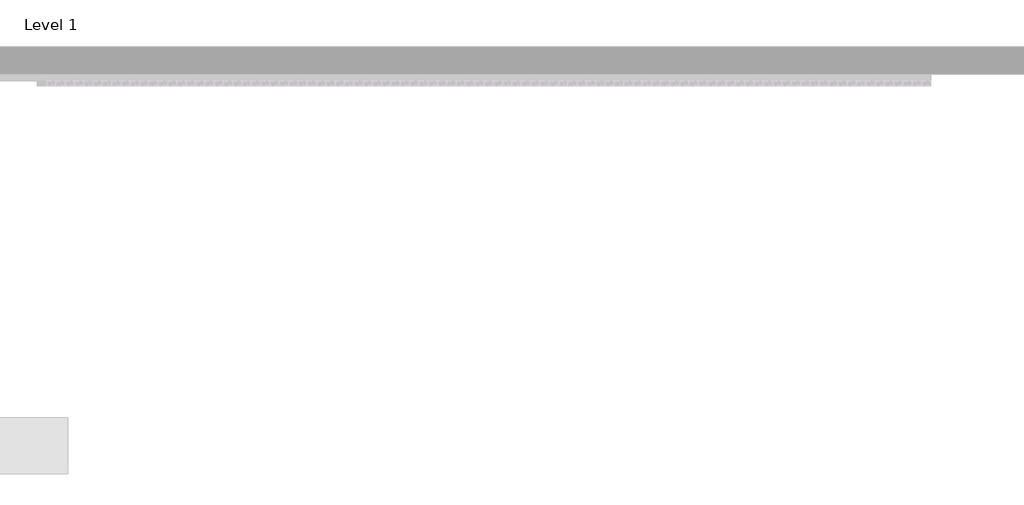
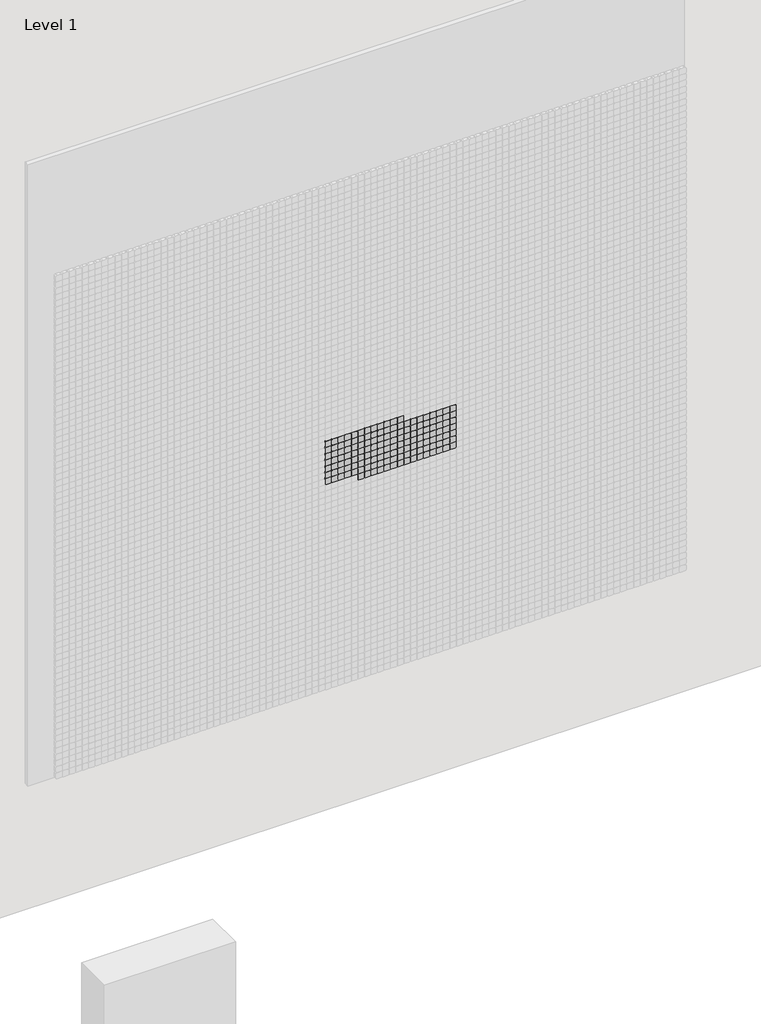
# One storey, part 43 of 71: 147 proxies.
"""IFC4 building model written with IfcOpenShell, lengths in millimetres."""

from ifc_helpers import new_model, si_unit, origin, place, context, project, spatial, transform, mapped, element, save
from components import generic_models_afde289c

model = new_model("IFC4")

# Units and contexts
model_context = context("Model", 3, world=origin())
ifc_project = project(units=[si_unit("LENGTHUNIT", "METRE", prefix="MILLI")], contexts=[model_context])

# Site, building, storey
site = spatial("IfcSite", under=ifc_project)
building = spatial("IfcBuilding", under=site)
storey = spatial("IfcBuildingStorey", under=building, Name="Level 1", Elevation=0.0)

# Proxies
placement = place(None, origin())
generic_models_shape = generic_models_afde289c(model_context)
element("IfcBuildingElementProxy", 1, Name="Pixel_M : Pixel_M", ObjectType="Pixel_M : Pixel_M", at=placement, inside=storey, context=model_context, shape_type="MappedRepresentation", body=[
    mapped(generic_models_shape, transform((7562.4280941, -75.0, 2966.3566215), x_axis=(1.0, 0.0, 0.0), y_axis=(0.0, 0.0, 1.0), z_axis=(0.0, -1.0, 0.0))),
])
element("IfcBuildingElementProxy", 2, Name="Pixel_M : Pixel_M", ObjectType="Pixel_M : Pixel_M", at=placement, inside=storey, context=model_context, shape_type="MappedRepresentation", body=[
    mapped(generic_models_shape, transform((7512.4280941, -75.0, 2966.3566215), x_axis=(1.0, 0.0, 0.0), y_axis=(0.0, 0.0, 1.0), z_axis=(0.0, -1.0, 0.0))),
])
element("IfcBuildingElementProxy", 3, Name="Pixel_M : Pixel_M", ObjectType="Pixel_M : Pixel_M", at=placement, inside=storey, context=model_context, shape_type="MappedRepresentation", body=[
    mapped(generic_models_shape, transform((7462.4280941, -75.0, 2966.3566215), x_axis=(1.0, 0.0, 0.0), y_axis=(0.0, 0.0, 1.0), z_axis=(0.0, -1.0, 0.0))),
])
element("IfcBuildingElementProxy", 4, Name="Pixel_M : Pixel_M", ObjectType="Pixel_M : Pixel_M", at=placement, inside=storey, context=model_context, shape_type="MappedRepresentation", body=[
    mapped(generic_models_shape, transform((7412.4280941, -75.0, 2966.3566215), x_axis=(1.0, 0.0, 0.0), y_axis=(0.0, 0.0, 1.0), z_axis=(0.0, -1.0, 0.0))),
])
element("IfcBuildingElementProxy", 5, Name="Pixel_M : Pixel_M", ObjectType="Pixel_M : Pixel_M", at=placement, inside=storey, context=model_context, shape_type="MappedRepresentation", body=[
    mapped(generic_models_shape, transform((7362.4280941, -75.0, 2966.3566215), x_axis=(1.0, 0.0, 0.0), y_axis=(0.0, 0.0, 1.0), z_axis=(0.0, -1.0, 0.0))),
])
element("IfcBuildingElementProxy", 6, Name="Pixel_M : Pixel_M", ObjectType="Pixel_M : Pixel_M", at=placement, inside=storey, context=model_context, shape_type="MappedRepresentation", body=[
    mapped(generic_models_shape, transform((7312.4280941, -75.0, 2966.3566215), x_axis=(1.0, 0.0, 0.0), y_axis=(0.0, 0.0, 1.0), z_axis=(0.0, -1.0, 0.0))),
])
element("IfcBuildingElementProxy", 7, Name="Pixel_M : Pixel_M", ObjectType="Pixel_M : Pixel_M", at=placement, inside=storey, context=model_context, shape_type="MappedRepresentation", body=[
    mapped(generic_models_shape, transform((7262.4280941, -75.0, 2966.3566215), x_axis=(1.0, 0.0, 0.0), y_axis=(0.0, 0.0, 1.0), z_axis=(0.0, -1.0, 0.0))),
])
element("IfcBuildingElementProxy", 8, Name="Pixel_M : Pixel_M", ObjectType="Pixel_M : Pixel_M", at=placement, inside=storey, context=model_context, shape_type="MappedRepresentation", body=[
    mapped(generic_models_shape, transform((7212.4280941, -75.0, 2966.3566215), x_axis=(1.0, 0.0, 0.0), y_axis=(0.0, 0.0, 1.0), z_axis=(0.0, -1.0, 0.0))),
])
element("IfcBuildingElementProxy", 9, Name="Pixel_M : Pixel_M", ObjectType="Pixel_M : Pixel_M", at=placement, inside=storey, context=model_context, shape_type="MappedRepresentation", body=[
    mapped(generic_models_shape, transform((7162.4280941, -75.0, 2966.3566215), x_axis=(1.0, 0.0, 0.0), y_axis=(0.0, 0.0, 1.0), z_axis=(0.0, -1.0, 0.0))),
])
element("IfcBuildingElementProxy", 10, Name="Pixel_M : Pixel_M", ObjectType="Pixel_M : Pixel_M", at=placement, inside=storey, context=model_context, shape_type="MappedRepresentation", body=[
    mapped(generic_models_shape, transform((7112.4280941, -75.0, 2966.3566215), x_axis=(1.0, 0.0, 0.0), y_axis=(0.0, 0.0, 1.0), z_axis=(0.0, -1.0, 0.0))),
])
element("IfcBuildingElementProxy", 11, Name="Pixel_M : Pixel_M", ObjectType="Pixel_M : Pixel_M", at=placement, inside=storey, context=model_context, shape_type="MappedRepresentation", body=[
    mapped(generic_models_shape, transform((7062.4280941, -75.0, 2966.3566215), x_axis=(1.0, 0.0, 0.0), y_axis=(0.0, 0.0, 1.0), z_axis=(0.0, -1.0, 0.0))),
])
element("IfcBuildingElementProxy", 12, Name="Pixel_M : Pixel_M", ObjectType="Pixel_M : Pixel_M", at=placement, inside=storey, context=model_context, shape_type="MappedRepresentation", body=[
    mapped(generic_models_shape, transform((7012.4280941, -75.0, 2966.3566215), x_axis=(1.0, 0.0, 0.0), y_axis=(0.0, 0.0, 1.0), z_axis=(0.0, -1.0, 0.0))),
])
element("IfcBuildingElementProxy", 13, Name="Pixel_M : Pixel_M", ObjectType="Pixel_M : Pixel_M", at=placement, inside=storey, context=model_context, shape_type="MappedRepresentation", body=[
    mapped(generic_models_shape, transform((7962.4280941, -75.0, 2916.3566215), x_axis=(1.0, 0.0, 0.0), y_axis=(0.0, 0.0, 1.0), z_axis=(0.0, -1.0, 0.0))),
])
element("IfcBuildingElementProxy", 14, Name="Pixel_M : Pixel_M", ObjectType="Pixel_M : Pixel_M", at=placement, inside=storey, context=model_context, shape_type="MappedRepresentation", body=[
    mapped(generic_models_shape, transform((7912.4280941, -75.0, 2916.3566215), x_axis=(1.0, 0.0, 0.0), y_axis=(0.0, 0.0, 1.0), z_axis=(0.0, -1.0, 0.0))),
])
element("IfcBuildingElementProxy", 15, Name="Pixel_M : Pixel_M", ObjectType="Pixel_M : Pixel_M", at=placement, inside=storey, context=model_context, shape_type="MappedRepresentation", body=[
    mapped(generic_models_shape, transform((7862.4280941, -75.0, 2916.3566215), x_axis=(1.0, 0.0, 0.0), y_axis=(0.0, 0.0, 1.0), z_axis=(0.0, -1.0, 0.0))),
])
element("IfcBuildingElementProxy", 16, Name="Pixel_M : Pixel_M", ObjectType="Pixel_M : Pixel_M", at=placement, inside=storey, context=model_context, shape_type="MappedRepresentation", body=[
    mapped(generic_models_shape, transform((7812.4280941, -75.0, 2916.3566215), x_axis=(1.0, 0.0, 0.0), y_axis=(0.0, 0.0, 1.0), z_axis=(0.0, -1.0, 0.0))),
])
element("IfcBuildingElementProxy", 17, Name="Pixel_M : Pixel_M", ObjectType="Pixel_M : Pixel_M", at=placement, inside=storey, context=model_context, shape_type="MappedRepresentation", body=[
    mapped(generic_models_shape, transform((7762.4280941, -75.0, 2916.3566215), x_axis=(1.0, 0.0, 0.0), y_axis=(0.0, 0.0, 1.0), z_axis=(0.0, -1.0, 0.0))),
])
element("IfcBuildingElementProxy", 18, Name="Pixel_M : Pixel_M", ObjectType="Pixel_M : Pixel_M", at=placement, inside=storey, context=model_context, shape_type="MappedRepresentation", body=[
    mapped(generic_models_shape, transform((7712.4280941, -75.0, 2916.3566215), x_axis=(1.0, 0.0, 0.0), y_axis=(0.0, 0.0, 1.0), z_axis=(0.0, -1.0, 0.0))),
])
element("IfcBuildingElementProxy", 19, Name="Pixel_M : Pixel_M", ObjectType="Pixel_M : Pixel_M", at=placement, inside=storey, context=model_context, shape_type="MappedRepresentation", body=[
    mapped(generic_models_shape, transform((7662.4280941, -75.0, 2916.3566215), x_axis=(1.0, 0.0, 0.0), y_axis=(0.0, 0.0, 1.0), z_axis=(0.0, -1.0, 0.0))),
])
element("IfcBuildingElementProxy", 20, Name="Pixel_M : Pixel_M", ObjectType="Pixel_M : Pixel_M", at=placement, inside=storey, context=model_context, shape_type="MappedRepresentation", body=[
    mapped(generic_models_shape, transform((7612.4280941, -75.0, 2916.3566215), x_axis=(1.0, 0.0, 0.0), y_axis=(0.0, 0.0, 1.0), z_axis=(0.0, -1.0, 0.0))),
])
element("IfcBuildingElementProxy", 21, Name="Pixel_M : Pixel_M", ObjectType="Pixel_M : Pixel_M", at=placement, inside=storey, context=model_context, shape_type="MappedRepresentation", body=[
    mapped(generic_models_shape, transform((7562.4280941, -75.0, 2916.3566215), x_axis=(1.0, 0.0, 0.0), y_axis=(0.0, 0.0, 1.0), z_axis=(0.0, -1.0, 0.0))),
])
element("IfcBuildingElementProxy", 22, Name="Pixel_M : Pixel_M", ObjectType="Pixel_M : Pixel_M", at=placement, inside=storey, context=model_context, shape_type="MappedRepresentation", body=[
    mapped(generic_models_shape, transform((7512.4280941, -75.0, 2916.3566215), x_axis=(1.0, 0.0, 0.0), y_axis=(0.0, 0.0, 1.0), z_axis=(0.0, -1.0, 0.0))),
])
element("IfcBuildingElementProxy", 23, Name="Pixel_M : Pixel_M", ObjectType="Pixel_M : Pixel_M", at=placement, inside=storey, context=model_context, shape_type="MappedRepresentation", body=[
    mapped(generic_models_shape, transform((7462.4280941, -75.0, 2916.3566215), x_axis=(1.0, 0.0, 0.0), y_axis=(0.0, 0.0, 1.0), z_axis=(0.0, -1.0, 0.0))),
])
element("IfcBuildingElementProxy", 24, Name="Pixel_M : Pixel_M", ObjectType="Pixel_M : Pixel_M", at=placement, inside=storey, context=model_context, shape_type="MappedRepresentation", body=[
    mapped(generic_models_shape, transform((7412.4280941, -75.0, 2916.3566215), x_axis=(1.0, 0.0, 0.0), y_axis=(0.0, 0.0, 1.0), z_axis=(0.0, -1.0, 0.0))),
])
element("IfcBuildingElementProxy", 25, Name="Pixel_M : Pixel_M", ObjectType="Pixel_M : Pixel_M", at=placement, inside=storey, context=model_context, shape_type="MappedRepresentation", body=[
    mapped(generic_models_shape, transform((7362.4280941, -75.0, 2916.3566215), x_axis=(1.0, 0.0, 0.0), y_axis=(0.0, 0.0, 1.0), z_axis=(0.0, -1.0, 0.0))),
])
element("IfcBuildingElementProxy", 26, Name="Pixel_M : Pixel_M", ObjectType="Pixel_M : Pixel_M", at=placement, inside=storey, context=model_context, shape_type="MappedRepresentation", body=[
    mapped(generic_models_shape, transform((7312.4280941, -75.0, 2916.3566215), x_axis=(1.0, 0.0, 0.0), y_axis=(0.0, 0.0, 1.0), z_axis=(0.0, -1.0, 0.0))),
])
element("IfcBuildingElementProxy", 27, Name="Pixel_M : Pixel_M", ObjectType="Pixel_M : Pixel_M", at=placement, inside=storey, context=model_context, shape_type="MappedRepresentation", body=[
    mapped(generic_models_shape, transform((7262.4280941, -75.0, 2916.3566215), x_axis=(1.0, 0.0, 0.0), y_axis=(0.0, 0.0, 1.0), z_axis=(0.0, -1.0, 0.0))),
])
element("IfcBuildingElementProxy", 28, Name="Pixel_M : Pixel_M", ObjectType="Pixel_M : Pixel_M", at=placement, inside=storey, context=model_context, shape_type="MappedRepresentation", body=[
    mapped(generic_models_shape, transform((7212.4280941, -75.0, 2916.3566215), x_axis=(1.0, 0.0, 0.0), y_axis=(0.0, 0.0, 1.0), z_axis=(0.0, -1.0, 0.0))),
])
element("IfcBuildingElementProxy", 29, Name="Pixel_M : Pixel_M", ObjectType="Pixel_M : Pixel_M", at=placement, inside=storey, context=model_context, shape_type="MappedRepresentation", body=[
    mapped(generic_models_shape, transform((7162.4280941, -75.0, 2916.3566215), x_axis=(1.0, 0.0, 0.0), y_axis=(0.0, 0.0, 1.0), z_axis=(0.0, -1.0, 0.0))),
])
element("IfcBuildingElementProxy", 30, Name="Pixel_M : Pixel_M", ObjectType="Pixel_M : Pixel_M", at=placement, inside=storey, context=model_context, shape_type="MappedRepresentation", body=[
    mapped(generic_models_shape, transform((7112.4280941, -75.0, 2916.3566215), x_axis=(1.0, 0.0, 0.0), y_axis=(0.0, 0.0, 1.0), z_axis=(0.0, -1.0, 0.0))),
])
element("IfcBuildingElementProxy", 31, Name="Pixel_M : Pixel_M", ObjectType="Pixel_M : Pixel_M", at=placement, inside=storey, context=model_context, shape_type="MappedRepresentation", body=[
    mapped(generic_models_shape, transform((7062.4280941, -75.0, 2916.3566215), x_axis=(1.0, 0.0, 0.0), y_axis=(0.0, 0.0, 1.0), z_axis=(0.0, -1.0, 0.0))),
])
element("IfcBuildingElementProxy", 32, Name="Pixel_M : Pixel_M", ObjectType="Pixel_M : Pixel_M", at=placement, inside=storey, context=model_context, shape_type="MappedRepresentation", body=[
    mapped(generic_models_shape, transform((7012.4280941, -75.0, 2916.3566215), x_axis=(1.0, 0.0, 0.0), y_axis=(0.0, 0.0, 1.0), z_axis=(0.0, -1.0, 0.0))),
])
element("IfcBuildingElementProxy", 33, Name="Pixel_M : Pixel_M", ObjectType="Pixel_M : Pixel_M", at=placement, inside=storey, context=model_context, shape_type="MappedRepresentation", body=[
    mapped(generic_models_shape, transform((7962.4280941, -75.0, 2866.3566215), x_axis=(1.0, 0.0, 0.0), y_axis=(0.0, 0.0, 1.0), z_axis=(0.0, -1.0, 0.0))),
])
element("IfcBuildingElementProxy", 34, Name="Pixel_M : Pixel_M", ObjectType="Pixel_M : Pixel_M", at=placement, inside=storey, context=model_context, shape_type="MappedRepresentation", body=[
    mapped(generic_models_shape, transform((7912.4280941, -75.0, 2866.3566215), x_axis=(1.0, 0.0, 0.0), y_axis=(0.0, 0.0, 1.0), z_axis=(0.0, -1.0, 0.0))),
])
element("IfcBuildingElementProxy", 35, Name="Pixel_M : Pixel_M", ObjectType="Pixel_M : Pixel_M", at=placement, inside=storey, context=model_context, shape_type="MappedRepresentation", body=[
    mapped(generic_models_shape, transform((7862.4280941, -75.0, 2866.3566215), x_axis=(1.0, 0.0, 0.0), y_axis=(0.0, 0.0, 1.0), z_axis=(0.0, -1.0, 0.0))),
])
element("IfcBuildingElementProxy", 36, Name="Pixel_M : Pixel_M", ObjectType="Pixel_M : Pixel_M", at=placement, inside=storey, context=model_context, shape_type="MappedRepresentation", body=[
    mapped(generic_models_shape, transform((7812.4280941, -75.0, 2866.3566215), x_axis=(1.0, 0.0, 0.0), y_axis=(0.0, 0.0, 1.0), z_axis=(0.0, -1.0, 0.0))),
])
element("IfcBuildingElementProxy", 37, Name="Pixel_M : Pixel_M", ObjectType="Pixel_M : Pixel_M", at=placement, inside=storey, context=model_context, shape_type="MappedRepresentation", body=[
    mapped(generic_models_shape, transform((7762.4280941, -75.0, 2866.3566215), x_axis=(1.0, 0.0, 0.0), y_axis=(0.0, 0.0, 1.0), z_axis=(0.0, -1.0, 0.0))),
])
element("IfcBuildingElementProxy", 38, Name="Pixel_M : Pixel_M", ObjectType="Pixel_M : Pixel_M", at=placement, inside=storey, context=model_context, shape_type="MappedRepresentation", body=[
    mapped(generic_models_shape, transform((7712.4280941, -75.0, 2866.3566215), x_axis=(1.0, 0.0, 0.0), y_axis=(0.0, 0.0, 1.0), z_axis=(0.0, -1.0, 0.0))),
])
element("IfcBuildingElementProxy", 39, Name="Pixel_M : Pixel_M", ObjectType="Pixel_M : Pixel_M", at=placement, inside=storey, context=model_context, shape_type="MappedRepresentation", body=[
    mapped(generic_models_shape, transform((7662.4280941, -75.0, 2866.3566215), x_axis=(1.0, 0.0, 0.0), y_axis=(0.0, 0.0, 1.0), z_axis=(0.0, -1.0, 0.0))),
])
element("IfcBuildingElementProxy", 40, Name="Pixel_M : Pixel_M", ObjectType="Pixel_M : Pixel_M", at=placement, inside=storey, context=model_context, shape_type="MappedRepresentation", body=[
    mapped(generic_models_shape, transform((7612.4280941, -75.0, 2866.3566215), x_axis=(1.0, 0.0, 0.0), y_axis=(0.0, 0.0, 1.0), z_axis=(0.0, -1.0, 0.0))),
])
element("IfcBuildingElementProxy", 41, Name="Pixel_M : Pixel_M", ObjectType="Pixel_M : Pixel_M", at=placement, inside=storey, context=model_context, shape_type="MappedRepresentation", body=[
    mapped(generic_models_shape, transform((7562.4280941, -75.0, 2866.3566215), x_axis=(1.0, 0.0, 0.0), y_axis=(0.0, 0.0, 1.0), z_axis=(0.0, -1.0, 0.0))),
])
element("IfcBuildingElementProxy", 42, Name="Pixel_M : Pixel_M", ObjectType="Pixel_M : Pixel_M", at=placement, inside=storey, context=model_context, shape_type="MappedRepresentation", body=[
    mapped(generic_models_shape, transform((7512.4280941, -75.0, 2866.3566215), x_axis=(1.0, 0.0, 0.0), y_axis=(0.0, 0.0, 1.0), z_axis=(0.0, -1.0, 0.0))),
])
element("IfcBuildingElementProxy", 43, Name="Pixel_M : Pixel_M", ObjectType="Pixel_M : Pixel_M", at=placement, inside=storey, context=model_context, shape_type="MappedRepresentation", body=[
    mapped(generic_models_shape, transform((7462.4280941, -75.0, 2866.3566215), x_axis=(1.0, 0.0, 0.0), y_axis=(0.0, 0.0, 1.0), z_axis=(0.0, -1.0, 0.0))),
])
element("IfcBuildingElementProxy", 44, Name="Pixel_M : Pixel_M", ObjectType="Pixel_M : Pixel_M", at=placement, inside=storey, context=model_context, shape_type="MappedRepresentation", body=[
    mapped(generic_models_shape, transform((7412.4280941, -75.0, 2866.3566215), x_axis=(1.0, 0.0, 0.0), y_axis=(0.0, 0.0, 1.0), z_axis=(0.0, -1.0, 0.0))),
])
element("IfcBuildingElementProxy", 45, Name="Pixel_M : Pixel_M", ObjectType="Pixel_M : Pixel_M", at=placement, inside=storey, context=model_context, shape_type="MappedRepresentation", body=[
    mapped(generic_models_shape, transform((7362.4280941, -75.0, 2866.3566215), x_axis=(1.0, 0.0, 0.0), y_axis=(0.0, 0.0, 1.0), z_axis=(0.0, -1.0, 0.0))),
])
element("IfcBuildingElementProxy", 46, Name="Pixel_M : Pixel_M", ObjectType="Pixel_M : Pixel_M", at=placement, inside=storey, context=model_context, shape_type="MappedRepresentation", body=[
    mapped(generic_models_shape, transform((7312.4280941, -75.0, 2866.3566215), x_axis=(1.0, 0.0, 0.0), y_axis=(0.0, 0.0, 1.0), z_axis=(0.0, -1.0, 0.0))),
])
element("IfcBuildingElementProxy", 47, Name="Pixel_M : Pixel_M", ObjectType="Pixel_M : Pixel_M", at=placement, inside=storey, context=model_context, shape_type="MappedRepresentation", body=[
    mapped(generic_models_shape, transform((7262.4280941, -75.0, 2866.3566215), x_axis=(1.0, 0.0, 0.0), y_axis=(0.0, 0.0, 1.0), z_axis=(0.0, -1.0, 0.0))),
])
element("IfcBuildingElementProxy", 48, Name="Pixel_M : Pixel_M", ObjectType="Pixel_M : Pixel_M", at=placement, inside=storey, context=model_context, shape_type="MappedRepresentation", body=[
    mapped(generic_models_shape, transform((7212.4280941, -75.0, 2866.3566215), x_axis=(1.0, 0.0, 0.0), y_axis=(0.0, 0.0, 1.0), z_axis=(0.0, -1.0, 0.0))),
])
element("IfcBuildingElementProxy", 49, Name="Pixel_M : Pixel_M", ObjectType="Pixel_M : Pixel_M", at=placement, inside=storey, context=model_context, shape_type="MappedRepresentation", body=[
    mapped(generic_models_shape, transform((7162.4280941, -75.0, 2866.3566215), x_axis=(1.0, 0.0, 0.0), y_axis=(0.0, 0.0, 1.0), z_axis=(0.0, -1.0, 0.0))),
])
element("IfcBuildingElementProxy", 50, Name="Pixel_M : Pixel_M", ObjectType="Pixel_M : Pixel_M", at=placement, inside=storey, context=model_context, shape_type="MappedRepresentation", body=[
    mapped(generic_models_shape, transform((7112.4280941, -75.0, 2866.3566215), x_axis=(1.0, 0.0, 0.0), y_axis=(0.0, 0.0, 1.0), z_axis=(0.0, -1.0, 0.0))),
])
element("IfcBuildingElementProxy", 51, Name="Pixel_M : Pixel_M", ObjectType="Pixel_M : Pixel_M", at=placement, inside=storey, context=model_context, shape_type="MappedRepresentation", body=[
    mapped(generic_models_shape, transform((7062.4280941, -75.0, 2866.3566215), x_axis=(1.0, 0.0, 0.0), y_axis=(0.0, 0.0, 1.0), z_axis=(0.0, -1.0, 0.0))),
])
element("IfcBuildingElementProxy", 52, Name="Pixel_M : Pixel_M", ObjectType="Pixel_M : Pixel_M", at=placement, inside=storey, context=model_context, shape_type="MappedRepresentation", body=[
    mapped(generic_models_shape, transform((7012.4280941, -75.0, 2866.3566215), x_axis=(1.0, 0.0, 0.0), y_axis=(0.0, 0.0, 1.0), z_axis=(0.0, -1.0, 0.0))),
])
element("IfcBuildingElementProxy", 53, Name="Pixel_M : Pixel_M", ObjectType="Pixel_M : Pixel_M", at=placement, inside=storey, context=model_context, shape_type="MappedRepresentation", body=[
    mapped(generic_models_shape, transform((7962.4280941, -75.0, 2816.3566215), x_axis=(1.0, 0.0, 0.0), y_axis=(0.0, 0.0, 1.0), z_axis=(0.0, -1.0, 0.0))),
])
element("IfcBuildingElementProxy", 54, Name="Pixel_M : Pixel_M", ObjectType="Pixel_M : Pixel_M", at=placement, inside=storey, context=model_context, shape_type="MappedRepresentation", body=[
    mapped(generic_models_shape, transform((7912.4280941, -75.0, 2816.3566215), x_axis=(1.0, 0.0, 0.0), y_axis=(0.0, 0.0, 1.0), z_axis=(0.0, -1.0, 0.0))),
])
element("IfcBuildingElementProxy", 55, Name="Pixel_M : Pixel_M", ObjectType="Pixel_M : Pixel_M", at=placement, inside=storey, context=model_context, shape_type="MappedRepresentation", body=[
    mapped(generic_models_shape, transform((7862.4280941, -75.0, 2816.3566215), x_axis=(1.0, 0.0, 0.0), y_axis=(0.0, 0.0, 1.0), z_axis=(0.0, -1.0, 0.0))),
])
element("IfcBuildingElementProxy", 56, Name="Pixel_M : Pixel_M", ObjectType="Pixel_M : Pixel_M", at=placement, inside=storey, context=model_context, shape_type="MappedRepresentation", body=[
    mapped(generic_models_shape, transform((7812.4280941, -75.0, 2816.3566215), x_axis=(1.0, 0.0, 0.0), y_axis=(0.0, 0.0, 1.0), z_axis=(0.0, -1.0, 0.0))),
])
element("IfcBuildingElementProxy", 57, Name="Pixel_M : Pixel_M", ObjectType="Pixel_M : Pixel_M", at=placement, inside=storey, context=model_context, shape_type="MappedRepresentation", body=[
    mapped(generic_models_shape, transform((7762.4280941, -75.0, 2816.3566215), x_axis=(1.0, 0.0, 0.0), y_axis=(0.0, 0.0, 1.0), z_axis=(0.0, -1.0, 0.0))),
])
element("IfcBuildingElementProxy", 58, Name="Pixel_M : Pixel_M", ObjectType="Pixel_M : Pixel_M", at=placement, inside=storey, context=model_context, shape_type="MappedRepresentation", body=[
    mapped(generic_models_shape, transform((7712.4280941, -75.0, 2816.3566215), x_axis=(1.0, 0.0, 0.0), y_axis=(0.0, 0.0, 1.0), z_axis=(0.0, -1.0, 0.0))),
])
element("IfcBuildingElementProxy", 59, Name="Pixel_M : Pixel_M", ObjectType="Pixel_M : Pixel_M", at=placement, inside=storey, context=model_context, shape_type="MappedRepresentation", body=[
    mapped(generic_models_shape, transform((7662.4280941, -75.0, 2816.3566215), x_axis=(1.0, 0.0, 0.0), y_axis=(0.0, 0.0, 1.0), z_axis=(0.0, -1.0, 0.0))),
])
element("IfcBuildingElementProxy", 60, Name="Pixel_M : Pixel_M", ObjectType="Pixel_M : Pixel_M", at=placement, inside=storey, context=model_context, shape_type="MappedRepresentation", body=[
    mapped(generic_models_shape, transform((7612.4280941, -75.0, 2816.3566215), x_axis=(1.0, 0.0, 0.0), y_axis=(0.0, 0.0, 1.0), z_axis=(0.0, -1.0, 0.0))),
])
element("IfcBuildingElementProxy", 61, Name="Pixel_M : Pixel_M", ObjectType="Pixel_M : Pixel_M", at=placement, inside=storey, context=model_context, shape_type="MappedRepresentation", body=[
    mapped(generic_models_shape, transform((7562.4280941, -75.0, 2816.3566215), x_axis=(1.0, 0.0, 0.0), y_axis=(0.0, 0.0, 1.0), z_axis=(0.0, -1.0, 0.0))),
])
element("IfcBuildingElementProxy", 62, Name="Pixel_M : Pixel_M", ObjectType="Pixel_M : Pixel_M", at=placement, inside=storey, context=model_context, shape_type="MappedRepresentation", body=[
    mapped(generic_models_shape, transform((7512.4280941, -75.0, 2816.3566215), x_axis=(1.0, 0.0, 0.0), y_axis=(0.0, 0.0, 1.0), z_axis=(0.0, -1.0, 0.0))),
])
element("IfcBuildingElementProxy", 63, Name="Pixel_M : Pixel_M", ObjectType="Pixel_M : Pixel_M", at=placement, inside=storey, context=model_context, shape_type="MappedRepresentation", body=[
    mapped(generic_models_shape, transform((7462.4280941, -75.0, 2816.3566215), x_axis=(1.0, 0.0, 0.0), y_axis=(0.0, 0.0, 1.0), z_axis=(0.0, -1.0, 0.0))),
])
element("IfcBuildingElementProxy", 64, Name="Pixel_M : Pixel_M", ObjectType="Pixel_M : Pixel_M", at=placement, inside=storey, context=model_context, shape_type="MappedRepresentation", body=[
    mapped(generic_models_shape, transform((7412.4280941, -75.0, 2816.3566215), x_axis=(1.0, 0.0, 0.0), y_axis=(0.0, 0.0, 1.0), z_axis=(0.0, -1.0, 0.0))),
])
element("IfcBuildingElementProxy", 65, Name="Pixel_M : Pixel_M", ObjectType="Pixel_M : Pixel_M", at=placement, inside=storey, context=model_context, shape_type="MappedRepresentation", body=[
    mapped(generic_models_shape, transform((7362.4280941, -75.0, 2816.3566215), x_axis=(1.0, 0.0, 0.0), y_axis=(0.0, 0.0, 1.0), z_axis=(0.0, -1.0, 0.0))),
])
element("IfcBuildingElementProxy", 66, Name="Pixel_M : Pixel_M", ObjectType="Pixel_M : Pixel_M", at=placement, inside=storey, context=model_context, shape_type="MappedRepresentation", body=[
    mapped(generic_models_shape, transform((7312.4280941, -75.0, 2816.3566215), x_axis=(1.0, 0.0, 0.0), y_axis=(0.0, 0.0, 1.0), z_axis=(0.0, -1.0, 0.0))),
])
element("IfcBuildingElementProxy", 67, Name="Pixel_M : Pixel_M", ObjectType="Pixel_M : Pixel_M", at=placement, inside=storey, context=model_context, shape_type="MappedRepresentation", body=[
    mapped(generic_models_shape, transform((7262.4280941, -75.0, 2816.3566215), x_axis=(1.0, 0.0, 0.0), y_axis=(0.0, 0.0, 1.0), z_axis=(0.0, -1.0, 0.0))),
])
element("IfcBuildingElementProxy", 68, Name="Pixel_M : Pixel_M", ObjectType="Pixel_M : Pixel_M", at=placement, inside=storey, context=model_context, shape_type="MappedRepresentation", body=[
    mapped(generic_models_shape, transform((7212.4280941, -75.0, 2816.3566215), x_axis=(1.0, 0.0, 0.0), y_axis=(0.0, 0.0, 1.0), z_axis=(0.0, -1.0, 0.0))),
])
element("IfcBuildingElementProxy", 69, Name="Pixel_M : Pixel_M", ObjectType="Pixel_M : Pixel_M", at=placement, inside=storey, context=model_context, shape_type="MappedRepresentation", body=[
    mapped(generic_models_shape, transform((7162.4280941, -75.0, 2816.3566215), x_axis=(1.0, 0.0, 0.0), y_axis=(0.0, 0.0, 1.0), z_axis=(0.0, -1.0, 0.0))),
])
element("IfcBuildingElementProxy", 70, Name="Pixel_M : Pixel_M", ObjectType="Pixel_M : Pixel_M", at=placement, inside=storey, context=model_context, shape_type="MappedRepresentation", body=[
    mapped(generic_models_shape, transform((7112.4280941, -75.0, 2816.3566215), x_axis=(1.0, 0.0, 0.0), y_axis=(0.0, 0.0, 1.0), z_axis=(0.0, -1.0, 0.0))),
])
element("IfcBuildingElementProxy", 71, Name="Pixel_M : Pixel_M", ObjectType="Pixel_M : Pixel_M", at=placement, inside=storey, context=model_context, shape_type="MappedRepresentation", body=[
    mapped(generic_models_shape, transform((7062.4280941, -75.0, 2816.3566215), x_axis=(1.0, 0.0, 0.0), y_axis=(0.0, 0.0, 1.0), z_axis=(0.0, -1.0, 0.0))),
])
element("IfcBuildingElementProxy", 72, Name="Pixel_M : Pixel_M", ObjectType="Pixel_M : Pixel_M", at=placement, inside=storey, context=model_context, shape_type="MappedRepresentation", body=[
    mapped(generic_models_shape, transform((7012.4280941, -75.0, 2816.3566215), x_axis=(1.0, 0.0, 0.0), y_axis=(0.0, 0.0, 1.0), z_axis=(0.0, -1.0, 0.0))),
])
element("IfcBuildingElementProxy", 73, Name="Pixel_M : Pixel_M", ObjectType="Pixel_M : Pixel_M", at=placement, inside=storey, context=model_context, shape_type="MappedRepresentation", body=[
    mapped(generic_models_shape, transform((7962.4280941, -75.0, 2766.3566215), x_axis=(1.0, 0.0, 0.0), y_axis=(0.0, 0.0, 1.0), z_axis=(0.0, -1.0, 0.0))),
])
element("IfcBuildingElementProxy", 74, Name="Pixel_M : Pixel_M", ObjectType="Pixel_M : Pixel_M", at=placement, inside=storey, context=model_context, shape_type="MappedRepresentation", body=[
    mapped(generic_models_shape, transform((7912.4280941, -75.0, 2766.3566215), x_axis=(1.0, 0.0, 0.0), y_axis=(0.0, 0.0, 1.0), z_axis=(0.0, -1.0, 0.0))),
])
element("IfcBuildingElementProxy", 75, Name="Pixel_M : Pixel_M", ObjectType="Pixel_M : Pixel_M", at=placement, inside=storey, context=model_context, shape_type="MappedRepresentation", body=[
    mapped(generic_models_shape, transform((7862.4280941, -75.0, 2766.3566215), x_axis=(1.0, 0.0, 0.0), y_axis=(0.0, 0.0, 1.0), z_axis=(0.0, -1.0, 0.0))),
])
element("IfcBuildingElementProxy", 76, Name="Pixel_M : Pixel_M", ObjectType="Pixel_M : Pixel_M", at=placement, inside=storey, context=model_context, shape_type="MappedRepresentation", body=[
    mapped(generic_models_shape, transform((7812.4280941, -75.0, 2766.3566215), x_axis=(1.0, 0.0, 0.0), y_axis=(0.0, 0.0, 1.0), z_axis=(0.0, -1.0, 0.0))),
])
element("IfcBuildingElementProxy", 77, Name="Pixel_M : Pixel_M", ObjectType="Pixel_M : Pixel_M", at=placement, inside=storey, context=model_context, shape_type="MappedRepresentation", body=[
    mapped(generic_models_shape, transform((7762.4280941, -75.0, 2766.3566215), x_axis=(1.0, 0.0, 0.0), y_axis=(0.0, 0.0, 1.0), z_axis=(0.0, -1.0, 0.0))),
])
element("IfcBuildingElementProxy", 78, Name="Pixel_M : Pixel_M", ObjectType="Pixel_M : Pixel_M", at=placement, inside=storey, context=model_context, shape_type="MappedRepresentation", body=[
    mapped(generic_models_shape, transform((7712.4280941, -75.0, 2766.3566215), x_axis=(1.0, 0.0, 0.0), y_axis=(0.0, 0.0, 1.0), z_axis=(0.0, -1.0, 0.0))),
])
element("IfcBuildingElementProxy", 79, Name="Pixel_M : Pixel_M", ObjectType="Pixel_M : Pixel_M", at=placement, inside=storey, context=model_context, shape_type="MappedRepresentation", body=[
    mapped(generic_models_shape, transform((7662.4280941, -75.0, 2766.3566215), x_axis=(1.0, 0.0, 0.0), y_axis=(0.0, 0.0, 1.0), z_axis=(0.0, -1.0, 0.0))),
])
element("IfcBuildingElementProxy", 80, Name="Pixel_M : Pixel_M", ObjectType="Pixel_M : Pixel_M", at=placement, inside=storey, context=model_context, shape_type="MappedRepresentation", body=[
    mapped(generic_models_shape, transform((7612.4280941, -75.0, 2766.3566215), x_axis=(1.0, 0.0, 0.0), y_axis=(0.0, 0.0, 1.0), z_axis=(0.0, -1.0, 0.0))),
])
element("IfcBuildingElementProxy", 81, Name="Pixel_M : Pixel_M", ObjectType="Pixel_M : Pixel_M", at=placement, inside=storey, context=model_context, shape_type="MappedRepresentation", body=[
    mapped(generic_models_shape, transform((7562.4280941, -75.0, 2766.3566215), x_axis=(1.0, 0.0, 0.0), y_axis=(0.0, 0.0, 1.0), z_axis=(0.0, -1.0, 0.0))),
])
element("IfcBuildingElementProxy", 82, Name="Pixel_M : Pixel_M", ObjectType="Pixel_M : Pixel_M", at=placement, inside=storey, context=model_context, shape_type="MappedRepresentation", body=[
    mapped(generic_models_shape, transform((7512.4280941, -75.0, 2766.3566215), x_axis=(1.0, 0.0, 0.0), y_axis=(0.0, 0.0, 1.0), z_axis=(0.0, -1.0, 0.0))),
])
element("IfcBuildingElementProxy", 83, Name="Pixel_M : Pixel_M", ObjectType="Pixel_M : Pixel_M", at=placement, inside=storey, context=model_context, shape_type="MappedRepresentation", body=[
    mapped(generic_models_shape, transform((7462.4280941, -75.0, 2766.3566215), x_axis=(1.0, 0.0, 0.0), y_axis=(0.0, 0.0, 1.0), z_axis=(0.0, -1.0, 0.0))),
])
element("IfcBuildingElementProxy", 84, Name="Pixel_M : Pixel_M", ObjectType="Pixel_M : Pixel_M", at=placement, inside=storey, context=model_context, shape_type="MappedRepresentation", body=[
    mapped(generic_models_shape, transform((7412.4280941, -75.0, 2766.3566215), x_axis=(1.0, 0.0, 0.0), y_axis=(0.0, 0.0, 1.0), z_axis=(0.0, -1.0, 0.0))),
])
element("IfcBuildingElementProxy", 85, Name="Pixel_M : Pixel_M", ObjectType="Pixel_M : Pixel_M", at=placement, inside=storey, context=model_context, shape_type="MappedRepresentation", body=[
    mapped(generic_models_shape, transform((7362.4280941, -75.0, 2766.3566215), x_axis=(1.0, 0.0, 0.0), y_axis=(0.0, 0.0, 1.0), z_axis=(0.0, -1.0, 0.0))),
])
element("IfcBuildingElementProxy", 86, Name="Pixel_M : Pixel_M", ObjectType="Pixel_M : Pixel_M", at=placement, inside=storey, context=model_context, shape_type="MappedRepresentation", body=[
    mapped(generic_models_shape, transform((7312.4280941, -75.0, 2766.3566215), x_axis=(1.0, 0.0, 0.0), y_axis=(0.0, 0.0, 1.0), z_axis=(0.0, -1.0, 0.0))),
])
element("IfcBuildingElementProxy", 87, Name="Pixel_M : Pixel_M", ObjectType="Pixel_M : Pixel_M", at=placement, inside=storey, context=model_context, shape_type="MappedRepresentation", body=[
    mapped(generic_models_shape, transform((7262.4280941, -75.0, 2766.3566215), x_axis=(1.0, 0.0, 0.0), y_axis=(0.0, 0.0, 1.0), z_axis=(0.0, -1.0, 0.0))),
])
element("IfcBuildingElementProxy", 88, Name="Pixel_M : Pixel_M", ObjectType="Pixel_M : Pixel_M", at=placement, inside=storey, context=model_context, shape_type="MappedRepresentation", body=[
    mapped(generic_models_shape, transform((7212.4280941, -75.0, 2766.3566215), x_axis=(1.0, 0.0, 0.0), y_axis=(0.0, 0.0, 1.0), z_axis=(0.0, -1.0, 0.0))),
])
element("IfcBuildingElementProxy", 89, Name="Pixel_M : Pixel_M", ObjectType="Pixel_M : Pixel_M", at=placement, inside=storey, context=model_context, shape_type="MappedRepresentation", body=[
    mapped(generic_models_shape, transform((7162.4280941, -75.0, 2766.3566215), x_axis=(1.0, 0.0, 0.0), y_axis=(0.0, 0.0, 1.0), z_axis=(0.0, -1.0, 0.0))),
])
element("IfcBuildingElementProxy", 90, Name="Pixel_M : Pixel_M", ObjectType="Pixel_M : Pixel_M", at=placement, inside=storey, context=model_context, shape_type="MappedRepresentation", body=[
    mapped(generic_models_shape, transform((7112.4280941, -75.0, 2766.3566215), x_axis=(1.0, 0.0, 0.0), y_axis=(0.0, 0.0, 1.0), z_axis=(0.0, -1.0, 0.0))),
])
element("IfcBuildingElementProxy", 91, Name="Pixel_M : Pixel_M", ObjectType="Pixel_M : Pixel_M", at=placement, inside=storey, context=model_context, shape_type="MappedRepresentation", body=[
    mapped(generic_models_shape, transform((7062.4280941, -75.0, 2766.3566215), x_axis=(1.0, 0.0, 0.0), y_axis=(0.0, 0.0, 1.0), z_axis=(0.0, -1.0, 0.0))),
])
element("IfcBuildingElementProxy", 92, Name="Pixel_M : Pixel_M", ObjectType="Pixel_M : Pixel_M", at=placement, inside=storey, context=model_context, shape_type="MappedRepresentation", body=[
    mapped(generic_models_shape, transform((7012.4280941, -75.0, 2766.3566215), x_axis=(1.0, 0.0, 0.0), y_axis=(0.0, 0.0, 1.0), z_axis=(0.0, -1.0, 0.0))),
])
element("IfcBuildingElementProxy", 93, Name="Pixel_M : Pixel_M", ObjectType="Pixel_M : Pixel_M", at=placement, inside=storey, context=model_context, shape_type="MappedRepresentation", body=[
    mapped(generic_models_shape, transform((7962.4280941, -75.0, 2716.3566215), x_axis=(1.0, 0.0, 0.0), y_axis=(0.0, 0.0, 1.0), z_axis=(0.0, -1.0, 0.0))),
])
element("IfcBuildingElementProxy", 94, Name="Pixel_M : Pixel_M", ObjectType="Pixel_M : Pixel_M", at=placement, inside=storey, context=model_context, shape_type="MappedRepresentation", body=[
    mapped(generic_models_shape, transform((7912.4280941, -75.0, 2716.3566215), x_axis=(1.0, 0.0, 0.0), y_axis=(0.0, 0.0, 1.0), z_axis=(0.0, -1.0, 0.0))),
])
element("IfcBuildingElementProxy", 95, Name="Pixel_M : Pixel_M", ObjectType="Pixel_M : Pixel_M", at=placement, inside=storey, context=model_context, shape_type="MappedRepresentation", body=[
    mapped(generic_models_shape, transform((7862.4280941, -75.0, 2716.3566215), x_axis=(1.0, 0.0, 0.0), y_axis=(0.0, 0.0, 1.0), z_axis=(0.0, -1.0, 0.0))),
])
element("IfcBuildingElementProxy", 96, Name="Pixel_M : Pixel_M", ObjectType="Pixel_M : Pixel_M", at=placement, inside=storey, context=model_context, shape_type="MappedRepresentation", body=[
    mapped(generic_models_shape, transform((7812.4280941, -75.0, 2716.3566215), x_axis=(1.0, 0.0, 0.0), y_axis=(0.0, 0.0, 1.0), z_axis=(0.0, -1.0, 0.0))),
])
element("IfcBuildingElementProxy", 97, Name="Pixel_M : Pixel_M", ObjectType="Pixel_M : Pixel_M", at=placement, inside=storey, context=model_context, shape_type="MappedRepresentation", body=[
    mapped(generic_models_shape, transform((7762.4280941, -75.0, 2716.3566215), x_axis=(1.0, 0.0, 0.0), y_axis=(0.0, 0.0, 1.0), z_axis=(0.0, -1.0, 0.0))),
])
element("IfcBuildingElementProxy", 98, Name="Pixel_M : Pixel_M", ObjectType="Pixel_M : Pixel_M", at=placement, inside=storey, context=model_context, shape_type="MappedRepresentation", body=[
    mapped(generic_models_shape, transform((7712.4280941, -75.0, 2716.3566215), x_axis=(1.0, 0.0, 0.0), y_axis=(0.0, 0.0, 1.0), z_axis=(0.0, -1.0, 0.0))),
])
element("IfcBuildingElementProxy", 99, Name="Pixel_M : Pixel_M", ObjectType="Pixel_M : Pixel_M", at=placement, inside=storey, context=model_context, shape_type="MappedRepresentation", body=[
    mapped(generic_models_shape, transform((7662.4280941, -75.0, 2716.3566215), x_axis=(1.0, 0.0, 0.0), y_axis=(0.0, 0.0, 1.0), z_axis=(0.0, -1.0, 0.0))),
])
element("IfcBuildingElementProxy", 100, Name="Pixel_M : Pixel_M", ObjectType="Pixel_M : Pixel_M", at=placement, inside=storey, context=model_context, shape_type="MappedRepresentation", body=[
    mapped(generic_models_shape, transform((7612.4280941, -75.0, 2716.3566215), x_axis=(1.0, 0.0, 0.0), y_axis=(0.0, 0.0, 1.0), z_axis=(0.0, -1.0, 0.0))),
])
element("IfcBuildingElementProxy", 101, Name="Pixel_M : Pixel_M", ObjectType="Pixel_M : Pixel_M", at=placement, inside=storey, context=model_context, shape_type="MappedRepresentation", body=[
    mapped(generic_models_shape, transform((7562.4280941, -75.0, 2716.3566215), x_axis=(1.0, 0.0, 0.0), y_axis=(0.0, 0.0, 1.0), z_axis=(0.0, -1.0, 0.0))),
])
element("IfcBuildingElementProxy", 102, Name="Pixel_M : Pixel_M", ObjectType="Pixel_M : Pixel_M", at=placement, inside=storey, context=model_context, shape_type="MappedRepresentation", body=[
    mapped(generic_models_shape, transform((7512.4280941, -75.0, 2716.3566215), x_axis=(1.0, 0.0, 0.0), y_axis=(0.0, 0.0, 1.0), z_axis=(0.0, -1.0, 0.0))),
])
element("IfcBuildingElementProxy", 103, Name="Pixel_M : Pixel_M", ObjectType="Pixel_M : Pixel_M", at=placement, inside=storey, context=model_context, shape_type="MappedRepresentation", body=[
    mapped(generic_models_shape, transform((7462.4280941, -75.0, 2716.3566215), x_axis=(1.0, 0.0, 0.0), y_axis=(0.0, 0.0, 1.0), z_axis=(0.0, -1.0, 0.0))),
])
element("IfcBuildingElementProxy", 104, Name="Pixel_M : Pixel_M", ObjectType="Pixel_M : Pixel_M", at=placement, inside=storey, context=model_context, shape_type="MappedRepresentation", body=[
    mapped(generic_models_shape, transform((7412.4280941, -75.0, 2716.3566215), x_axis=(1.0, 0.0, 0.0), y_axis=(0.0, 0.0, 1.0), z_axis=(0.0, -1.0, 0.0))),
])
element("IfcBuildingElementProxy", 105, Name="Pixel_M : Pixel_M", ObjectType="Pixel_M : Pixel_M", at=placement, inside=storey, context=model_context, shape_type="MappedRepresentation", body=[
    mapped(generic_models_shape, transform((7362.4280941, -75.0, 2716.3566215), x_axis=(1.0, 0.0, 0.0), y_axis=(0.0, 0.0, 1.0), z_axis=(0.0, -1.0, 0.0))),
])
element("IfcBuildingElementProxy", 106, Name="Pixel_M : Pixel_M", ObjectType="Pixel_M : Pixel_M", at=placement, inside=storey, context=model_context, shape_type="MappedRepresentation", body=[
    mapped(generic_models_shape, transform((7312.4280941, -75.0, 2716.3566215), x_axis=(1.0, 0.0, 0.0), y_axis=(0.0, 0.0, 1.0), z_axis=(0.0, -1.0, 0.0))),
])
element("IfcBuildingElementProxy", 107, Name="Pixel_M : Pixel_M", ObjectType="Pixel_M : Pixel_M", at=placement, inside=storey, context=model_context, shape_type="MappedRepresentation", body=[
    mapped(generic_models_shape, transform((7262.4280941, -75.0, 2716.3566215), x_axis=(1.0, 0.0, 0.0), y_axis=(0.0, 0.0, 1.0), z_axis=(0.0, -1.0, 0.0))),
])
element("IfcBuildingElementProxy", 108, Name="Pixel_M : Pixel_M", ObjectType="Pixel_M : Pixel_M", at=placement, inside=storey, context=model_context, shape_type="MappedRepresentation", body=[
    mapped(generic_models_shape, transform((7212.4280941, -75.0, 2716.3566215), x_axis=(1.0, 0.0, 0.0), y_axis=(0.0, 0.0, 1.0), z_axis=(0.0, -1.0, 0.0))),
])
element("IfcBuildingElementProxy", 109, Name="Pixel_M : Pixel_M", ObjectType="Pixel_M : Pixel_M", at=placement, inside=storey, context=model_context, shape_type="MappedRepresentation", body=[
    mapped(generic_models_shape, transform((7162.4280941, -75.0, 2716.3566215), x_axis=(1.0, 0.0, 0.0), y_axis=(0.0, 0.0, 1.0), z_axis=(0.0, -1.0, 0.0))),
])
element("IfcBuildingElementProxy", 110, Name="Pixel_M : Pixel_M", ObjectType="Pixel_M : Pixel_M", at=placement, inside=storey, context=model_context, shape_type="MappedRepresentation", body=[
    mapped(generic_models_shape, transform((7112.4280941, -75.0, 2716.3566215), x_axis=(1.0, 0.0, 0.0), y_axis=(0.0, 0.0, 1.0), z_axis=(0.0, -1.0, 0.0))),
])
element("IfcBuildingElementProxy", 111, Name="Pixel_M : Pixel_M", ObjectType="Pixel_M : Pixel_M", at=placement, inside=storey, context=model_context, shape_type="MappedRepresentation", body=[
    mapped(generic_models_shape, transform((7062.4280941, -75.0, 2716.3566215), x_axis=(1.0, 0.0, 0.0), y_axis=(0.0, 0.0, 1.0), z_axis=(0.0, -1.0, 0.0))),
])
element("IfcBuildingElementProxy", 112, Name="Pixel_M : Pixel_M", ObjectType="Pixel_M : Pixel_M", at=placement, inside=storey, context=model_context, shape_type="MappedRepresentation", body=[
    mapped(generic_models_shape, transform((7012.4280941, -75.0, 2716.3566215), x_axis=(1.0, 0.0, 0.0), y_axis=(0.0, 0.0, 1.0), z_axis=(0.0, -1.0, 0.0))),
])
element("IfcBuildingElementProxy", 113, Name="Pixel_M : Pixel_M", ObjectType="Pixel_M : Pixel_M", at=placement, inside=storey, context=model_context, shape_type="MappedRepresentation", body=[
    mapped(generic_models_shape, transform((7962.4280941, -75.0, 2666.3566215), x_axis=(1.0, 0.0, 0.0), y_axis=(0.0, 0.0, 1.0), z_axis=(0.0, -1.0, 0.0))),
])
element("IfcBuildingElementProxy", 114, Name="Pixel_M : Pixel_M", ObjectType="Pixel_M : Pixel_M", at=placement, inside=storey, context=model_context, shape_type="MappedRepresentation", body=[
    mapped(generic_models_shape, transform((7912.4280941, -75.0, 2666.3566215), x_axis=(1.0, 0.0, 0.0), y_axis=(0.0, 0.0, 1.0), z_axis=(0.0, -1.0, 0.0))),
])
element("IfcBuildingElementProxy", 115, Name="Pixel_M : Pixel_M", ObjectType="Pixel_M : Pixel_M", at=placement, inside=storey, context=model_context, shape_type="MappedRepresentation", body=[
    mapped(generic_models_shape, transform((7862.4280941, -75.0, 2666.3566215), x_axis=(1.0, 0.0, 0.0), y_axis=(0.0, 0.0, 1.0), z_axis=(0.0, -1.0, 0.0))),
])
element("IfcBuildingElementProxy", 116, Name="Pixel_M : Pixel_M", ObjectType="Pixel_M : Pixel_M", at=placement, inside=storey, context=model_context, shape_type="MappedRepresentation", body=[
    mapped(generic_models_shape, transform((7812.4280941, -75.0, 2666.3566215), x_axis=(1.0, 0.0, 0.0), y_axis=(0.0, 0.0, 1.0), z_axis=(0.0, -1.0, 0.0))),
])
element("IfcBuildingElementProxy", 117, Name="Pixel_M : Pixel_M", ObjectType="Pixel_M : Pixel_M", at=placement, inside=storey, context=model_context, shape_type="MappedRepresentation", body=[
    mapped(generic_models_shape, transform((7762.4280941, -75.0, 2666.3566215), x_axis=(1.0, 0.0, 0.0), y_axis=(0.0, 0.0, 1.0), z_axis=(0.0, -1.0, 0.0))),
])
element("IfcBuildingElementProxy", 118, Name="Pixel_M : Pixel_M", ObjectType="Pixel_M : Pixel_M", at=placement, inside=storey, context=model_context, shape_type="MappedRepresentation", body=[
    mapped(generic_models_shape, transform((7712.4280941, -75.0, 2666.3566215), x_axis=(1.0, 0.0, 0.0), y_axis=(0.0, 0.0, 1.0), z_axis=(0.0, -1.0, 0.0))),
])
element("IfcBuildingElementProxy", 119, Name="Pixel_M : Pixel_M", ObjectType="Pixel_M : Pixel_M", at=placement, inside=storey, context=model_context, shape_type="MappedRepresentation", body=[
    mapped(generic_models_shape, transform((7662.4280941, -75.0, 2666.3566215), x_axis=(1.0, 0.0, 0.0), y_axis=(0.0, 0.0, 1.0), z_axis=(0.0, -1.0, 0.0))),
])
element("IfcBuildingElementProxy", 120, Name="Pixel_M : Pixel_M", ObjectType="Pixel_M : Pixel_M", at=placement, inside=storey, context=model_context, shape_type="MappedRepresentation", body=[
    mapped(generic_models_shape, transform((7612.4280941, -75.0, 2666.3566215), x_axis=(1.0, 0.0, 0.0), y_axis=(0.0, 0.0, 1.0), z_axis=(0.0, -1.0, 0.0))),
])
element("IfcBuildingElementProxy", 121, Name="Pixel_M : Pixel_M", ObjectType="Pixel_M : Pixel_M", at=placement, inside=storey, context=model_context, shape_type="MappedRepresentation", body=[
    mapped(generic_models_shape, transform((7562.4280941, -75.0, 2666.3566215), x_axis=(1.0, 0.0, 0.0), y_axis=(0.0, 0.0, 1.0), z_axis=(0.0, -1.0, 0.0))),
])
element("IfcBuildingElementProxy", 122, Name="Pixel_M : Pixel_M", ObjectType="Pixel_M : Pixel_M", at=placement, inside=storey, context=model_context, shape_type="MappedRepresentation", body=[
    mapped(generic_models_shape, transform((7512.4280941, -75.0, 2666.3566215), x_axis=(1.0, 0.0, 0.0), y_axis=(0.0, 0.0, 1.0), z_axis=(0.0, -1.0, 0.0))),
])
element("IfcBuildingElementProxy", 123, Name="Pixel_M : Pixel_M", ObjectType="Pixel_M : Pixel_M", at=placement, inside=storey, context=model_context, shape_type="MappedRepresentation", body=[
    mapped(generic_models_shape, transform((7462.4280941, -75.0, 2666.3566215), x_axis=(1.0, 0.0, 0.0), y_axis=(0.0, 0.0, 1.0), z_axis=(0.0, -1.0, 0.0))),
])
element("IfcBuildingElementProxy", 124, Name="Pixel_M : Pixel_M", ObjectType="Pixel_M : Pixel_M", at=placement, inside=storey, context=model_context, shape_type="MappedRepresentation", body=[
    mapped(generic_models_shape, transform((7412.4280941, -75.0, 2666.3566215), x_axis=(1.0, 0.0, 0.0), y_axis=(0.0, 0.0, 1.0), z_axis=(0.0, -1.0, 0.0))),
])
element("IfcBuildingElementProxy", 125, Name="Pixel_M : Pixel_M", ObjectType="Pixel_M : Pixel_M", at=placement, inside=storey, context=model_context, shape_type="MappedRepresentation", body=[
    mapped(generic_models_shape, transform((7362.4280941, -75.0, 2666.3566215), x_axis=(1.0, 0.0, 0.0), y_axis=(0.0, 0.0, 1.0), z_axis=(0.0, -1.0, 0.0))),
])
element("IfcBuildingElementProxy", 126, Name="Pixel_M : Pixel_M", ObjectType="Pixel_M : Pixel_M", at=placement, inside=storey, context=model_context, shape_type="MappedRepresentation", body=[
    mapped(generic_models_shape, transform((7312.4280941, -75.0, 2666.3566215), x_axis=(1.0, 0.0, 0.0), y_axis=(0.0, 0.0, 1.0), z_axis=(0.0, -1.0, 0.0))),
])
element("IfcBuildingElementProxy", 127, Name="Pixel_M : Pixel_M", ObjectType="Pixel_M : Pixel_M", at=placement, inside=storey, context=model_context, shape_type="MappedRepresentation", body=[
    mapped(generic_models_shape, transform((7262.4280941, -75.0, 2666.3566215), x_axis=(1.0, 0.0, 0.0), y_axis=(0.0, 0.0, 1.0), z_axis=(0.0, -1.0, 0.0))),
])
element("IfcBuildingElementProxy", 128, Name="Pixel_M : Pixel_M", ObjectType="Pixel_M : Pixel_M", at=placement, inside=storey, context=model_context, shape_type="MappedRepresentation", body=[
    mapped(generic_models_shape, transform((7212.4280941, -75.0, 2666.3566215), x_axis=(1.0, 0.0, 0.0), y_axis=(0.0, 0.0, 1.0), z_axis=(0.0, -1.0, 0.0))),
])
element("IfcBuildingElementProxy", 129, Name="Pixel_M : Pixel_M", ObjectType="Pixel_M : Pixel_M", at=placement, inside=storey, context=model_context, shape_type="MappedRepresentation", body=[
    mapped(generic_models_shape, transform((7162.4280941, -75.0, 2666.3566215), x_axis=(1.0, 0.0, 0.0), y_axis=(0.0, 0.0, 1.0), z_axis=(0.0, -1.0, 0.0))),
])
element("IfcBuildingElementProxy", 130, Name="Pixel_M : Pixel_M", ObjectType="Pixel_M : Pixel_M", at=placement, inside=storey, context=model_context, shape_type="MappedRepresentation", body=[
    mapped(generic_models_shape, transform((7112.4280941, -75.0, 2666.3566215), x_axis=(1.0, 0.0, 0.0), y_axis=(0.0, 0.0, 1.0), z_axis=(0.0, -1.0, 0.0))),
])
element("IfcBuildingElementProxy", 131, Name="Pixel_M : Pixel_M", ObjectType="Pixel_M : Pixel_M", at=placement, inside=storey, context=model_context, shape_type="MappedRepresentation", body=[
    mapped(generic_models_shape, transform((7062.4280941, -75.0, 2666.3566215), x_axis=(1.0, 0.0, 0.0), y_axis=(0.0, 0.0, 1.0), z_axis=(0.0, -1.0, 0.0))),
])
element("IfcBuildingElementProxy", 132, Name="Pixel_M : Pixel_M", ObjectType="Pixel_M : Pixel_M", at=placement, inside=storey, context=model_context, shape_type="MappedRepresentation", body=[
    mapped(generic_models_shape, transform((7012.4280941, -75.0, 2666.3566215), x_axis=(1.0, 0.0, 0.0), y_axis=(0.0, 0.0, 1.0), z_axis=(0.0, -1.0, 0.0))),
])
element("IfcBuildingElementProxy", 133, Name="Pixel_M : Pixel_M", ObjectType="Pixel_M : Pixel_M", at=placement, inside=storey, context=model_context, shape_type="MappedRepresentation", body=[
    mapped(generic_models_shape, transform((7962.4280941, -75.0, 2616.3566215), x_axis=(1.0, 0.0, 0.0), y_axis=(0.0, 0.0, 1.0), z_axis=(0.0, -1.0, 0.0))),
])
element("IfcBuildingElementProxy", 134, Name="Pixel_M : Pixel_M", ObjectType="Pixel_M : Pixel_M", at=placement, inside=storey, context=model_context, shape_type="MappedRepresentation", body=[
    mapped(generic_models_shape, transform((7912.4280941, -75.0, 2616.3566215), x_axis=(1.0, 0.0, 0.0), y_axis=(0.0, 0.0, 1.0), z_axis=(0.0, -1.0, 0.0))),
])
element("IfcBuildingElementProxy", 135, Name="Pixel_M : Pixel_M", ObjectType="Pixel_M : Pixel_M", at=placement, inside=storey, context=model_context, shape_type="MappedRepresentation", body=[
    mapped(generic_models_shape, transform((7862.4280941, -75.0, 2616.3566215), x_axis=(1.0, 0.0, 0.0), y_axis=(0.0, 0.0, 1.0), z_axis=(0.0, -1.0, 0.0))),
])
element("IfcBuildingElementProxy", 136, Name="Pixel_M : Pixel_M", ObjectType="Pixel_M : Pixel_M", at=placement, inside=storey, context=model_context, shape_type="MappedRepresentation", body=[
    mapped(generic_models_shape, transform((7812.4280941, -75.0, 2616.3566215), x_axis=(1.0, 0.0, 0.0), y_axis=(0.0, 0.0, 1.0), z_axis=(0.0, -1.0, 0.0))),
])
element("IfcBuildingElementProxy", 137, Name="Pixel_M : Pixel_M", ObjectType="Pixel_M : Pixel_M", at=placement, inside=storey, context=model_context, shape_type="MappedRepresentation", body=[
    mapped(generic_models_shape, transform((7762.4280941, -75.0, 2616.3566215), x_axis=(1.0, 0.0, 0.0), y_axis=(0.0, 0.0, 1.0), z_axis=(0.0, -1.0, 0.0))),
])
element("IfcBuildingElementProxy", 138, Name="Pixel_M : Pixel_M", ObjectType="Pixel_M : Pixel_M", at=placement, inside=storey, context=model_context, shape_type="MappedRepresentation", body=[
    mapped(generic_models_shape, transform((7712.4280941, -75.0, 2616.3566215), x_axis=(1.0, 0.0, 0.0), y_axis=(0.0, 0.0, 1.0), z_axis=(0.0, -1.0, 0.0))),
])
element("IfcBuildingElementProxy", 139, Name="Pixel_M : Pixel_M", ObjectType="Pixel_M : Pixel_M", at=placement, inside=storey, context=model_context, shape_type="MappedRepresentation", body=[
    mapped(generic_models_shape, transform((7662.4280941, -75.0, 2616.3566215), x_axis=(1.0, 0.0, 0.0), y_axis=(0.0, 0.0, 1.0), z_axis=(0.0, -1.0, 0.0))),
])
element("IfcBuildingElementProxy", 140, Name="Pixel_M : Pixel_M", ObjectType="Pixel_M : Pixel_M", at=placement, inside=storey, context=model_context, shape_type="MappedRepresentation", body=[
    mapped(generic_models_shape, transform((7612.4280941, -75.0, 2616.3566215), x_axis=(1.0, 0.0, 0.0), y_axis=(0.0, 0.0, 1.0), z_axis=(0.0, -1.0, 0.0))),
])
element("IfcBuildingElementProxy", 141, Name="Pixel_M : Pixel_M", ObjectType="Pixel_M : Pixel_M", at=placement, inside=storey, context=model_context, shape_type="MappedRepresentation", body=[
    mapped(generic_models_shape, transform((7562.4280941, -75.0, 2616.3566215), x_axis=(1.0, 0.0, 0.0), y_axis=(0.0, 0.0, 1.0), z_axis=(0.0, -1.0, 0.0))),
])
element("IfcBuildingElementProxy", 142, Name="Pixel_M : Pixel_M", ObjectType="Pixel_M : Pixel_M", at=placement, inside=storey, context=model_context, shape_type="MappedRepresentation", body=[
    mapped(generic_models_shape, transform((7512.4280941, -75.0, 2616.3566215), x_axis=(1.0, 0.0, 0.0), y_axis=(0.0, 0.0, 1.0), z_axis=(0.0, -1.0, 0.0))),
])
element("IfcBuildingElementProxy", 143, Name="Pixel_M : Pixel_M", ObjectType="Pixel_M : Pixel_M", at=placement, inside=storey, context=model_context, shape_type="MappedRepresentation", body=[
    mapped(generic_models_shape, transform((7462.4280941, -75.0, 2616.3566215), x_axis=(1.0, 0.0, 0.0), y_axis=(0.0, 0.0, 1.0), z_axis=(0.0, -1.0, 0.0))),
])
element("IfcBuildingElementProxy", 144, Name="Pixel_M : Pixel_M", ObjectType="Pixel_M : Pixel_M", at=placement, inside=storey, context=model_context, shape_type="MappedRepresentation", body=[
    mapped(generic_models_shape, transform((7412.4280941, -75.0, 2616.3566215), x_axis=(1.0, 0.0, 0.0), y_axis=(0.0, 0.0, 1.0), z_axis=(0.0, -1.0, 0.0))),
])
element("IfcBuildingElementProxy", 145, Name="Pixel_M : Pixel_M", ObjectType="Pixel_M : Pixel_M", at=placement, inside=storey, context=model_context, shape_type="MappedRepresentation", body=[
    mapped(generic_models_shape, transform((7362.4280941, -75.0, 2616.3566215), x_axis=(1.0, 0.0, 0.0), y_axis=(0.0, 0.0, 1.0), z_axis=(0.0, -1.0, 0.0))),
])
element("IfcBuildingElementProxy", 146, Name="Pixel_M : Pixel_M", ObjectType="Pixel_M : Pixel_M", at=placement, inside=storey, context=model_context, shape_type="MappedRepresentation", body=[
    mapped(generic_models_shape, transform((7312.4280941, -75.0, 2616.3566215), x_axis=(1.0, 0.0, 0.0), y_axis=(0.0, 0.0, 1.0), z_axis=(0.0, -1.0, 0.0))),
])
element("IfcBuildingElementProxy", 147, Name="Pixel_M : Pixel_M", ObjectType="Pixel_M : Pixel_M", at=placement, inside=storey, context=model_context, shape_type="MappedRepresentation", body=[
    mapped(generic_models_shape, transform((7262.4280941, -75.0, 2616.3566215), x_axis=(1.0, 0.0, 0.0), y_axis=(0.0, 0.0, 1.0), z_axis=(0.0, -1.0, 0.0))),
])

save(model, "model.ifc")
